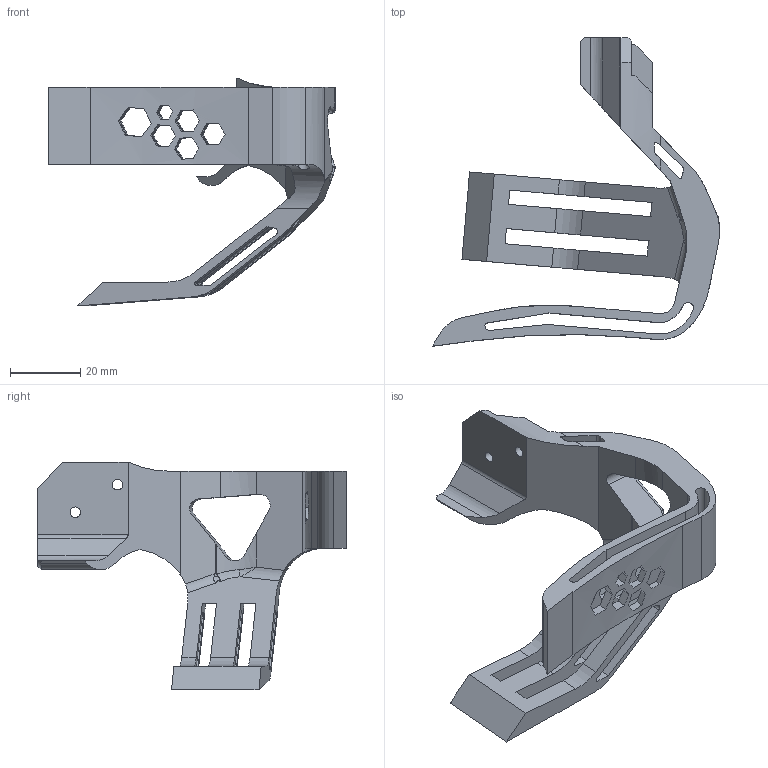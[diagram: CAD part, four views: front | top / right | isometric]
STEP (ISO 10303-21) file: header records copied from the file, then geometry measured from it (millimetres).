
FILE_DESCRIPTION(/* description */ (''),/* implementation_level */ '2;1');
FILE_NAME(/* name */ 'ma2.stp',/* time_stamp */ '2021-03-21T20:46:04+08:00',/* author */ (''),/* organization */ (''),/* preprocessor_version */ 'ST-DEVELOPER v16',/* originating_system */ 'SIEMENS PLM Software NX 10.0',/* authorisation */ '');
FILE_SCHEMA (('CONFIG_CONTROL_DESIGN'));
Length unit declared in the file: millimetre
Products named in the file (1): _model2
Bounding box: 81.84 x 87.94 x 64.94 mm (x, y, z)
Volume: 26775.4 mm3; surface area: 19622.4 mm2
Topology: 1 solids, 1 shells, 243 faces, 739 edges, 483 vertices
Faces by surface type: plane 156, cylinder 65, bspline 16, cone 4, sphere 2
Full cylindrical faces by diameter (mm): 3 x2, 5.8 x1
Entity records: 8981 total; most frequent: CARTESIAN_POINT 2170, ORIENTED_EDGE 1466, DIRECTION 1371, EDGE_CURVE 733, VERTEX_POINT 481, LINE 463, VECTOR 463, AXIS2_PLACEMENT_3D 454
